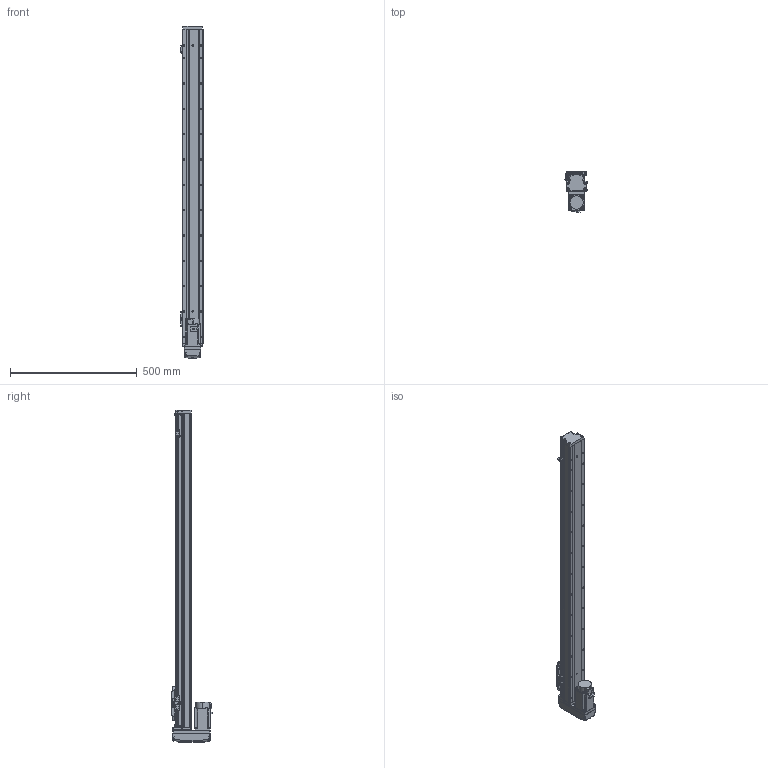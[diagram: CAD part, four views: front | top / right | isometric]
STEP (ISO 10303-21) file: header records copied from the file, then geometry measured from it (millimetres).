
FILE_DESCRIPTION (( 'STEP AP203' ), '1' );
FILE_NAME ('GTH8-1050-BM-M20-C4.step', '2022-09-23T01:03:59', ( '微软用户' ), ( '微软中国' ), 'SwSTEP 2.0', 'SolidWorks 2020', '' );
FILE_SCHEMA (( 'CONFIG_CONTROL_DESIGN' ));
Length unit declared in the file: millimetre
Products named in the file (18): GBT 70.3-M3℅6; GBT96.1-2002 3×0.8; GTH80-022; BTH-M3X5X6; GTH80-001_1050; GBT 70.1-M3℅6; hg-kn43j_-s100_; GTH80-003; GBT 70.1-M4×16; CTHA86-015-1_CTHA86-015-2; GTH80-004; GTH80-028; CTHA86-033_M40B; GTH80-006; GTH50-024; GTH8-1050-BM-M20-C4; GTH80-013; GTH50-023
Assembly tree (57 placements, depth 2):
  GTH8-1050-BM-M20-C4
    GTH80-001_1050
    GTH80-003
    GTH80-004
    GTH80-006
    GTH80-013
    GBT 70.3-M3℅6  x4
    GTH80-022
    GBT 70.1-M3℅6  x14
    GBT 70.1-M4×16  x8
    GTH80-028  x2
    GTH50-024  x3
    GTH50-023  x3
    GBT96.1-2002 3×0.8  x6
    BTH-M3X5X6  x8
    hg-kn43j_-s100_
    CTHA86-015-1_CTHA86-015-2
    CTHA86-033_M40B
Bounding box: 86.9 x 160.3 x 1311 mm (x, y, z)
Volume: 6355659.5 mm3; surface area: 614518.2 mm2
Topology: 59 solids, 59 shells, 2260 faces, 5235 edges, 3211 vertices
Faces by surface type: plane 1187, cylinder 631, cone 260, torus 166, bspline 8, sphere 8
Entity records: 41662 total; most frequent: CARTESIAN_POINT 7313, DIRECTION 6789, ORIENTED_EDGE 6288, EDGE_CURVE 3144, AXIS2_PLACEMENT_3D 2385, VECTOR 2019, LINE 2019, VERTEX_POINT 1986
